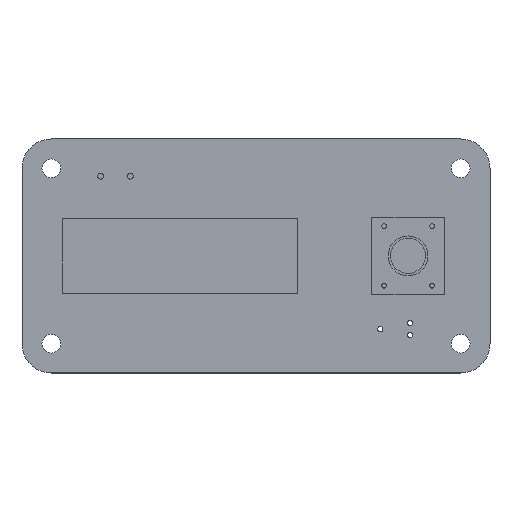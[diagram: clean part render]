
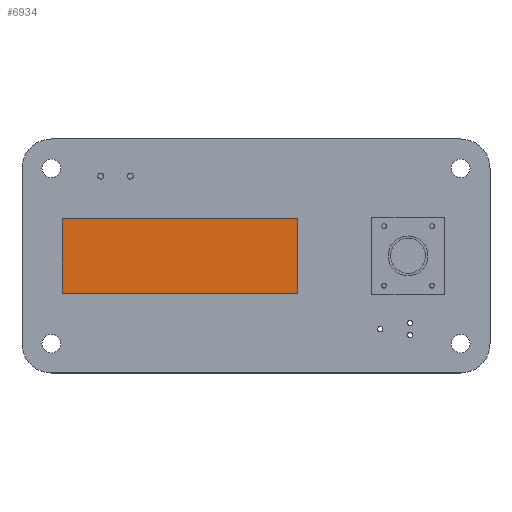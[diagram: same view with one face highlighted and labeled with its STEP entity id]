
A CAD part, top view. The second image highlights one B-rep face of the part: STEP entity #6934.
In plain terms, the highlighted planar face has unit normal (0, 0, 1).
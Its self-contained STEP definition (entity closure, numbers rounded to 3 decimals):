
#563 = EDGE_CURVE ( 'NONE', #6670, #2092, #7184, .T. ) ;
#637 = PLANE ( 'NONE',  #11296 ) ;
#837 = FACE_OUTER_BOUND ( 'NONE', #4503, .T. ) ;
#1068 = DIRECTION ( 'NONE',  ( 0., 0., -1. ) ) ;
#2092 = VERTEX_POINT ( 'NONE', #4907 ) ;
#2448 = VECTOR ( 'NONE', #12523, 1000. ) ;
#2493 = VECTOR ( 'NONE', #11870, 1000. ) ;
#2718 = VERTEX_POINT ( 'NONE', #5319 ) ;
#3181 = EDGE_CURVE ( 'NONE', #2718, #6670, #3668, .T. ) ;
#3547 = ORIENTED_EDGE ( 'NONE', *, *, #10806, .T. ) ;
#3618 = CARTESIAN_POINT ( 'NONE',  ( 47.09, 26.4, 8.6 ) ) ;
#3668 = LINE ( 'NONE', #12929, #11917 ) ;
#4503 = EDGE_LOOP ( 'NONE', ( #9194, #5637, #3547, #11932 ) ) ;
#4907 = CARTESIAN_POINT ( 'NONE',  ( 47.09, 13.6, 8.6 ) ) ;
#5319 = CARTESIAN_POINT ( 'NONE',  ( 6.91, 26.4, 8.6 ) ) ;
#5350 = CARTESIAN_POINT ( 'NONE',  ( 6.91, 13.6, 8.6 ) ) ;
#5544 = LINE ( 'NONE', #11055, #2448 ) ;
#5637 = ORIENTED_EDGE ( 'NONE', *, *, #563, .T. ) ;
#5651 = DIRECTION ( 'NONE',  ( -1., 0., 0. ) ) ;
#6670 = VERTEX_POINT ( 'NONE', #5350 ) ;
#6934 = ADVANCED_FACE ( 'NONE', ( #837 ), #637, .F. ) ;
#7184 = LINE ( 'NONE', #12255, #9905 ) ;
#7401 = LINE ( 'NONE', #3618, #2493 ) ;
#7445 = DIRECTION ( 'NONE',  ( 0., -1., 0. ) ) ;
#8254 = DIRECTION ( 'NONE',  ( 1., 0., 0. ) ) ;
#9194 = ORIENTED_EDGE ( 'NONE', *, *, #3181, .T. ) ;
#9640 = CARTESIAN_POINT ( 'NONE',  ( 0., 0., 8.6 ) ) ;
#9905 = VECTOR ( 'NONE', #8254, 1000. ) ;
#10598 = CARTESIAN_POINT ( 'NONE',  ( 47.09, 26.4, 8.6 ) ) ;
#10806 = EDGE_CURVE ( 'NONE', #2092, #12214, #7401, .T. ) ;
#11055 = CARTESIAN_POINT ( 'NONE',  ( 6.91, 26.4, 8.6 ) ) ;
#11250 = EDGE_CURVE ( 'NONE', #12214, #2718, #5544, .T. ) ;
#11296 = AXIS2_PLACEMENT_3D ( 'NONE', #9640, #1068, #5651 ) ;
#11870 = DIRECTION ( 'NONE',  ( 0., 1., 0. ) ) ;
#11917 = VECTOR ( 'NONE', #7445, 1000. ) ;
#11932 = ORIENTED_EDGE ( 'NONE', *, *, #11250, .T. ) ;
#12214 = VERTEX_POINT ( 'NONE', #10598 ) ;
#12255 = CARTESIAN_POINT ( 'NONE',  ( 47.09, 13.6, 8.6 ) ) ;
#12523 = DIRECTION ( 'NONE',  ( -1., 0., 0. ) ) ;
#12929 = CARTESIAN_POINT ( 'NONE',  ( 6.91, 13.6, 8.6 ) ) ;
